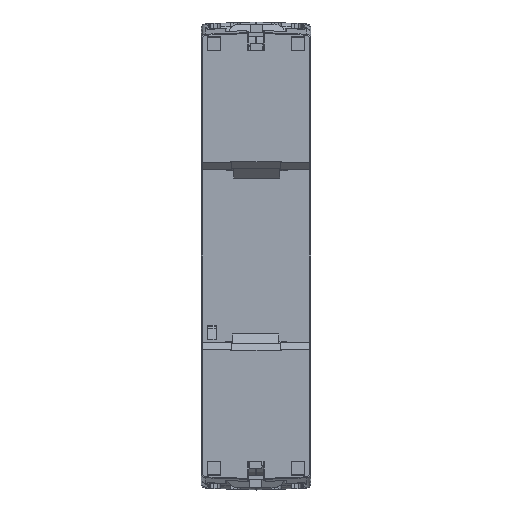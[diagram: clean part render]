
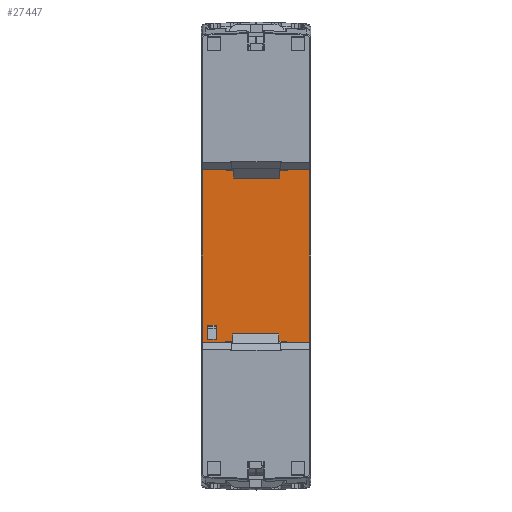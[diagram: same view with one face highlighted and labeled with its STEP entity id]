
A CAD part, front view. The second image highlights one B-rep face of the part: STEP entity #27447.
In plain terms, the highlighted planar face has unit normal (0, -1, 0).
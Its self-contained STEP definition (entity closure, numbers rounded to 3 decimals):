
#6670=DIRECTION('',(-1.,0.,0.));
#6671=VECTOR('',#6670,4.05);
#6672=CARTESIAN_POINT('',(4.25,5.5,-17.7));
#6673=LINE('',#6672,#6671);
#6677=DIRECTION('',(0.,0.,1.));
#6678=VECTOR('',#6677,35.4);
#6679=CARTESIAN_POINT('',(0.2,5.5,-17.7));
#6680=LINE('',#6679,#6678);
#6684=DIRECTION('',(1.,0.,0.));
#6685=VECTOR('',#6684,4.05);
#6686=CARTESIAN_POINT('',(0.2,5.5,17.7));
#6687=LINE('',#6686,#6685);
#6691=DIRECTION('',(1.,0.,0.));
#6692=VECTOR('',#6691,0.7);
#6693=CARTESIAN_POINT('',(4.45,5.5,17.9));
#6694=LINE('',#6693,#6692);
#6698=DIRECTION('',(1.,0.,0.));
#6699=VECTOR('',#6698,0.4);
#6700=CARTESIAN_POINT('',(17.65,5.5,17.9));
#6701=LINE('',#6700,#6699);
#6705=DIRECTION('',(1.,0.,0.));
#6706=VECTOR('',#6705,4.05);
#6707=CARTESIAN_POINT('',(18.25,5.5,17.7));
#6708=LINE('',#6707,#6706);
#6712=DIRECTION('',(0.,0.,-1.));
#6713=VECTOR('',#6712,35.4);
#6714=CARTESIAN_POINT('',(22.3,5.5,17.7));
#6715=LINE('',#6714,#6713);
#6719=DIRECTION('',(-1.,0.,0.));
#6720=VECTOR('',#6719,4.05);
#6721=CARTESIAN_POINT('',(22.3,5.5,-17.7));
#6722=LINE('',#6721,#6720);
#6747=DIRECTION('',(-0.707,0.,0.707));
#6748=VECTOR('',#6747,0.283);
#6749=CARTESIAN_POINT('',(4.45,5.5,-17.9));
#6750=LINE('',#6749,#6748);
#6768=DIRECTION('',(1.,0.,0.));
#6769=VECTOR('',#6768,0.5);
#6770=CARTESIAN_POINT('',(4.45,5.5,-17.9));
#6771=LINE('',#6770,#6769);
#6775=DIRECTION('',(1.,0.,0.));
#6776=VECTOR('',#6775,0.6);
#6777=CARTESIAN_POINT('',(17.45,5.5,-17.9));
#6778=LINE('',#6777,#6776);
#6810=DIRECTION('',(-0.707,0.,-0.707));
#6811=VECTOR('',#6810,0.283);
#6812=CARTESIAN_POINT('',(18.25,5.5,-17.7));
#6813=LINE('',#6812,#6811);
#7450=DIRECTION('',(0.707,0.,-0.707));
#7451=VECTOR('',#7450,0.283);
#7452=CARTESIAN_POINT('',(18.05,5.5,17.9));
#7453=LINE('',#7452,#7451);
#7464=DIRECTION('',(0.,0.,-1.));
#7465=VECTOR('',#7464,0.4);
#7466=CARTESIAN_POINT('',(17.65,5.5,17.9));
#7467=LINE('',#7466,#7465);
#7485=DIRECTION('',(-1.,0.,0.));
#7486=VECTOR('',#7485,12.5);
#7487=CARTESIAN_POINT('',(17.65,5.5,17.5));
#7488=LINE('',#7487,#7486);
#7527=DIRECTION('',(0.,0.,-1.));
#7528=VECTOR('',#7527,0.4);
#7529=CARTESIAN_POINT('',(5.15,5.5,17.9));
#7530=LINE('',#7529,#7528);
#7667=DIRECTION('',(0.707,0.,0.707));
#7668=VECTOR('',#7667,0.283);
#7669=CARTESIAN_POINT('',(4.25,5.5,17.7));
#7670=LINE('',#7669,#7668);
#7793=DIRECTION('',(0.,0.,1.));
#7794=VECTOR('',#7793,0.4);
#7795=CARTESIAN_POINT('',(4.95,5.5,-17.9));
#7796=LINE('',#7795,#7794);
#7821=DIRECTION('',(1.,0.,0.));
#7822=VECTOR('',#7821,12.5);
#7823=CARTESIAN_POINT('',(4.95,5.5,-17.5));
#7824=LINE('',#7823,#7822);
#7849=DIRECTION('',(0.,0.,1.));
#7850=VECTOR('',#7849,0.4);
#7851=CARTESIAN_POINT('',(17.45,5.5,-17.9));
#7852=LINE('',#7851,#7850);
#7996=DIRECTION('',(1.,0.,0.));
#7997=VECTOR('',#7996,1.8);
#7998=CARTESIAN_POINT('',(1.3,5.5,-14.219));
#7999=LINE('',#7998,#7997);
#8003=DIRECTION('',(0.,0.,1.));
#8004=VECTOR('',#8003,0.327);
#8005=CARTESIAN_POINT('',(3.1,5.5,-14.546));
#8006=LINE('',#8005,#8004);
#8018=DIRECTION('',(0.,0.,-1.));
#8019=VECTOR('',#8018,0.37);
#8020=CARTESIAN_POINT('',(3.1,5.5,-14.546));
#8021=LINE('',#8020,#8019);
#8046=DIRECTION('',(1.,0.,0.));
#8047=VECTOR('',#8046,1.8);
#8048=CARTESIAN_POINT('',(1.3,5.5,-14.916));
#8049=LINE('',#8048,#8047);
#8053=DIRECTION('',(0.,0.,-1.));
#8054=VECTOR('',#8053,0.37);
#8055=CARTESIAN_POINT('',(1.3,5.5,-14.546));
#8056=LINE('',#8055,#8054);
#8081=DIRECTION('',(0.,0.,1.));
#8082=VECTOR('',#8081,0.327);
#8083=CARTESIAN_POINT('',(1.3,5.5,-14.546));
#8084=LINE('',#8083,#8082);
#20539=CARTESIAN_POINT('',(22.3,5.5,17.7));
#20540=VERTEX_POINT('',#20539);
#20543=CARTESIAN_POINT('',(22.3,5.5,-17.7));
#20544=VERTEX_POINT('',#20543);
#21196=CARTESIAN_POINT('',(0.2,5.5,-17.7));
#21197=VERTEX_POINT('',#21196);
#21200=CARTESIAN_POINT('',(0.2,5.5,17.7));
#21201=VERTEX_POINT('',#21200);
#21861=CARTESIAN_POINT('',(18.05,5.5,17.9));
#21862=VERTEX_POINT('',#21861);
#21863=CARTESIAN_POINT('',(18.25,5.5,17.7));
#21864=VERTEX_POINT('',#21863);
#21865=CARTESIAN_POINT('',(18.25,5.5,-17.7));
#21866=CARTESIAN_POINT('',(18.05,5.5,-17.9));
#21867=VERTEX_POINT('',#21865);
#21868=VERTEX_POINT('',#21866);
#22064=CARTESIAN_POINT('',(17.65,5.5,17.5));
#22065=CARTESIAN_POINT('',(5.15,5.5,17.5));
#22066=VERTEX_POINT('',#22064);
#22067=VERTEX_POINT('',#22065);
#22072=CARTESIAN_POINT('',(5.15,5.5,17.9));
#22073=VERTEX_POINT('',#22072);
#22074=CARTESIAN_POINT('',(17.65,5.5,17.9));
#22075=VERTEX_POINT('',#22074);
#22202=CARTESIAN_POINT('',(4.45,5.5,-17.9));
#22203=CARTESIAN_POINT('',(4.25,5.5,-17.7));
#22204=VERTEX_POINT('',#22202);
#22205=VERTEX_POINT('',#22203);
#22206=CARTESIAN_POINT('',(4.45,5.5,17.9));
#22207=VERTEX_POINT('',#22206);
#22208=CARTESIAN_POINT('',(4.25,5.5,17.7));
#22209=VERTEX_POINT('',#22208);
#22397=CARTESIAN_POINT('',(1.3,5.5,-14.219));
#22398=CARTESIAN_POINT('',(3.1,5.5,-14.219));
#22399=VERTEX_POINT('',#22397);
#22400=VERTEX_POINT('',#22398);
#22401=CARTESIAN_POINT('',(1.3,5.5,-14.916));
#22402=CARTESIAN_POINT('',(3.1,5.5,-14.916));
#22403=VERTEX_POINT('',#22401);
#22404=VERTEX_POINT('',#22402);
#22405=CARTESIAN_POINT('',(1.3,5.5,-14.546));
#22406=VERTEX_POINT('',#22405);
#22407=CARTESIAN_POINT('',(3.1,5.5,-14.546));
#22408=VERTEX_POINT('',#22407);
#22417=CARTESIAN_POINT('',(4.95,5.5,-17.5));
#22418=CARTESIAN_POINT('',(17.45,5.5,-17.5));
#22419=VERTEX_POINT('',#22417);
#22420=VERTEX_POINT('',#22418);
#22425=CARTESIAN_POINT('',(17.45,5.5,-17.9));
#22426=VERTEX_POINT('',#22425);
#22427=CARTESIAN_POINT('',(4.95,5.5,-17.9));
#22428=VERTEX_POINT('',#22427);
#27387=CARTESIAN_POINT('',(22.5,5.5,17.7));
#27388=DIRECTION('',(0.,1.,0.));
#27389=DIRECTION('',(0.,0.,-1.));
#27390=AXIS2_PLACEMENT_3D('',#27387,#27388,#27389);
#27391=PLANE('',#27390);
#27393=ORIENTED_EDGE('',*,*,#27392,.T.);
#27395=ORIENTED_EDGE('',*,*,#27394,.T.);
#27397=ORIENTED_EDGE('',*,*,#27396,.T.);
#27399=ORIENTED_EDGE('',*,*,#27398,.T.);
#27401=ORIENTED_EDGE('',*,*,#27400,.T.);
#27403=ORIENTED_EDGE('',*,*,#27402,.T.);
#27405=ORIENTED_EDGE('',*,*,#27404,.F.);
#27407=ORIENTED_EDGE('',*,*,#27406,.F.);
#27409=ORIENTED_EDGE('',*,*,#27408,.T.);
#27411=ORIENTED_EDGE('',*,*,#27410,.T.);
#27412=ORIENTED_EDGE('',*,*,#27373,.T.);
#27414=ORIENTED_EDGE('',*,*,#27413,.T.);
#27416=ORIENTED_EDGE('',*,*,#27415,.T.);
#27418=ORIENTED_EDGE('',*,*,#27417,.T.);
#27420=ORIENTED_EDGE('',*,*,#27419,.F.);
#27422=ORIENTED_EDGE('',*,*,#27421,.T.);
#27424=ORIENTED_EDGE('',*,*,#27423,.F.);
#27426=ORIENTED_EDGE('',*,*,#27425,.F.);
#27428=ORIENTED_EDGE('',*,*,#27427,.F.);
#27430=ORIENTED_EDGE('',*,*,#27429,.T.);
#27431=EDGE_LOOP('',(#27393,#27395,#27397,#27399,#27401,#27403,#27405,#27407,
#27409,#27411,#27412,#27414,#27416,#27418,#27420,#27422,#27424,#27426,#27428,
#27430));
#27432=FACE_OUTER_BOUND('',#27431,.F.);
#27434=ORIENTED_EDGE('',*,*,#27433,.F.);
#27436=ORIENTED_EDGE('',*,*,#27435,.F.);
#27438=ORIENTED_EDGE('',*,*,#27437,.T.);
#27440=ORIENTED_EDGE('',*,*,#27439,.T.);
#27442=ORIENTED_EDGE('',*,*,#27441,.F.);
#27444=ORIENTED_EDGE('',*,*,#27443,.T.);
#27445=EDGE_LOOP('',(#27434,#27436,#27438,#27440,#27442,#27444));
#27446=FACE_BOUND('',#27445,.F.);
#27373=EDGE_CURVE('',#21864,#20540,#6708,.T.);
#27392=EDGE_CURVE('',#22205,#21197,#6673,.T.);
#27394=EDGE_CURVE('',#21197,#21201,#6680,.T.);
#27396=EDGE_CURVE('',#21201,#22209,#6687,.T.);
#27398=EDGE_CURVE('',#22209,#22207,#7670,.T.);
#27400=EDGE_CURVE('',#22207,#22073,#6694,.T.);
#27402=EDGE_CURVE('',#22073,#22067,#7530,.T.);
#27404=EDGE_CURVE('',#22066,#22067,#7488,.T.);
#27406=EDGE_CURVE('',#22075,#22066,#7467,.T.);
#27408=EDGE_CURVE('',#22075,#21862,#6701,.T.);
#27410=EDGE_CURVE('',#21862,#21864,#7453,.T.);
#27413=EDGE_CURVE('',#20540,#20544,#6715,.T.);
#27415=EDGE_CURVE('',#20544,#21867,#6722,.T.);
#27417=EDGE_CURVE('',#21867,#21868,#6813,.T.);
#27419=EDGE_CURVE('',#22426,#21868,#6778,.T.);
#27421=EDGE_CURVE('',#22426,#22420,#7852,.T.);
#27423=EDGE_CURVE('',#22419,#22420,#7824,.T.);
#27425=EDGE_CURVE('',#22428,#22419,#7796,.T.);
#27427=EDGE_CURVE('',#22204,#22428,#6771,.T.);
#27429=EDGE_CURVE('',#22204,#22205,#6750,.T.);
#27433=EDGE_CURVE('',#22399,#22400,#7999,.T.);
#27435=EDGE_CURVE('',#22406,#22399,#8084,.T.);
#27437=EDGE_CURVE('',#22406,#22403,#8056,.T.);
#27439=EDGE_CURVE('',#22403,#22404,#8049,.T.);
#27441=EDGE_CURVE('',#22408,#22404,#8021,.T.);
#27443=EDGE_CURVE('',#22408,#22400,#8006,.T.);
#27447=ADVANCED_FACE('',(#27432,#27446),#27391,.F.);
